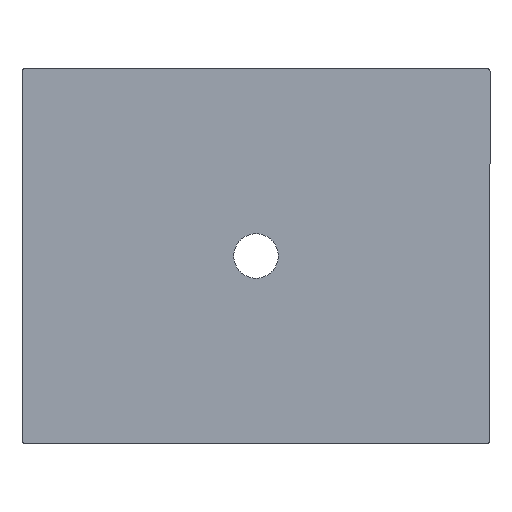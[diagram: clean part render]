
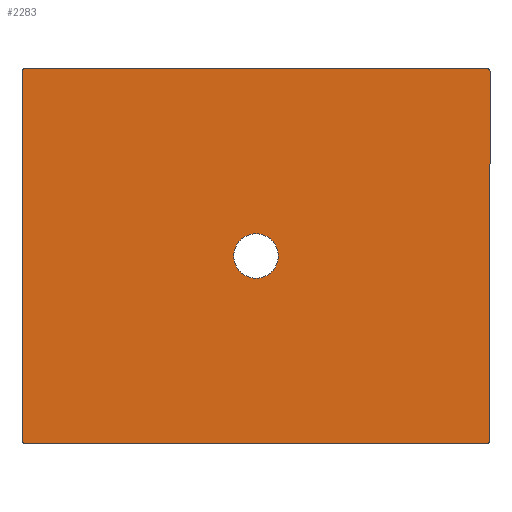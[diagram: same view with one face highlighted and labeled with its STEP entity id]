
A CAD part, front view. The second image highlights one B-rep face of the part: STEP entity #2283.
In plain terms, the highlighted planar face has unit normal (0, -1, 0).
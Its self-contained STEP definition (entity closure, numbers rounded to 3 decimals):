
#5 = CARTESIAN_POINT ( 'NONE',  ( 500., 0., 395.001 ) ) ;
#40 = PLANE ( 'NONE',  #633 ) ;
#109 = EDGE_CURVE ( 'NONE', #503, #892, #1597, .T. ) ;
#121 = CARTESIAN_POINT ( 'NONE',  ( 500., 0., 397.929 ) ) ;
#134 = EDGE_CURVE ( 'NONE', #2434, #954, #2320, .T. ) ;
#177 = CARTESIAN_POINT ( 'NONE',  ( -495.001, 0., -400. ) ) ;
#271 = CARTESIAN_POINT ( 'NONE',  ( -500., 0., 395.001 ) ) ;
#273 = CIRCLE ( 'NONE', #1721, 47.5 ) ;
#316 = DIRECTION ( 'NONE',  ( 0., -1., 0. ) ) ;
#324 = EDGE_CURVE ( 'NONE', #602, #1851, #2572, .T. ) ;
#376 =( BOUNDED_CURVE ( )  B_SPLINE_CURVE ( 3, ( #896, #121, #2497, #910 ),
 .UNSPECIFIED., .F., .F. ) 
 B_SPLINE_CURVE_WITH_KNOTS ( ( 4, 4 ),
 ( 5.498, 7.068 ),
 .UNSPECIFIED. ) 
 CURVE ( )  GEOMETRIC_REPRESENTATION_ITEM ( )  RATIONAL_B_SPLINE_CURVE ( ( 1., 0.805, 0.805, 1. ) ) 
 REPRESENTATION_ITEM ( '' )  );
#378 = DIRECTION ( 'NONE',  ( 1., 0., 0. ) ) ;
#493 = CARTESIAN_POINT ( 'NONE',  ( -495.001, 0., 400. ) ) ;
#503 = VERTEX_POINT ( 'NONE', #1029 ) ;
#509 = VERTEX_POINT ( 'NONE', #2092 ) ;
#538 = CARTESIAN_POINT ( 'NONE',  ( -497.929, 0., -400. ) ) ;
#541 = CARTESIAN_POINT ( 'NONE',  ( 495.001, 0., -400. ) ) ;
#578 = CARTESIAN_POINT ( 'NONE',  ( -500., 0., -395.001 ) ) ;
#587 = LINE ( 'NONE', #603, #941 ) ;
#602 = VERTEX_POINT ( 'NONE', #2439 ) ;
#603 = CARTESIAN_POINT ( 'NONE',  ( -500., 0., -400. ) ) ;
#633 = AXIS2_PLACEMENT_3D ( 'NONE', #2242, #2411, #2217 ) ;
#644 = EDGE_LOOP ( 'NONE', ( #2285 ) ) ;
#778 = CARTESIAN_POINT ( 'NONE',  ( -495.001, 0., -400. ) ) ;
#790 = EDGE_CURVE ( 'NONE', #1290, #954, #376, .T. ) ;
#801 = CARTESIAN_POINT ( 'NONE',  ( 500., 0., 400. ) ) ;
#892 = VERTEX_POINT ( 'NONE', #2271 ) ;
#896 = CARTESIAN_POINT ( 'NONE',  ( 500., 0., 395.001 ) ) ;
#910 = CARTESIAN_POINT ( 'NONE',  ( 495.001, 0., 400. ) ) ;
#921 = VECTOR ( 'NONE', #378, 1000. ) ;
#941 = VECTOR ( 'NONE', #1391, 1000. ) ;
#954 = VERTEX_POINT ( 'NONE', #1685 ) ;
#962 = CARTESIAN_POINT ( 'NONE',  ( 500., 0., -395.001 ) ) ;
#981 = CARTESIAN_POINT ( 'NONE',  ( 500., 0., -400. ) ) ;
#1029 = CARTESIAN_POINT ( 'NONE',  ( 495.001, 0., -400. ) ) ;
#1049 = EDGE_CURVE ( 'NONE', #503, #1851, #2119, .T. ) ;
#1155 = CARTESIAN_POINT ( 'NONE',  ( -500., 0., 400. ) ) ;
#1188 = EDGE_LOOP ( 'NONE', ( #2475, #1950, #1529, #1680, #2061, #1902, #2496, #1542 ) ) ;
#1189 = LINE ( 'NONE', #801, #1932 ) ;
#1218 = EDGE_CURVE ( 'NONE', #602, #2301, #587, .T. ) ;
#1241 = EDGE_CURVE ( 'NONE', #1290, #892, #1189, .T. ) ;
#1290 = VERTEX_POINT ( 'NONE', #5 ) ;
#1321 = CARTESIAN_POINT ( 'NONE',  ( -497.929, 0., 400. ) ) ;
#1332 = CARTESIAN_POINT ( 'NONE',  ( 497.929, 0., -400. ) ) ;
#1391 = DIRECTION ( 'NONE',  ( 0., 0., 1. ) ) ;
#1460 = CARTESIAN_POINT ( 'NONE',  ( -500., 0., 395.001 ) ) ;
#1529 = ORIENTED_EDGE ( 'NONE', *, *, #1241, .F. ) ;
#1542 = ORIENTED_EDGE ( 'NONE', *, *, #324, .T. ) ;
#1590 = EDGE_CURVE ( 'NONE', #509, #509, #273, .T. ) ;
#1597 =( BOUNDED_CURVE ( )  B_SPLINE_CURVE ( 3, ( #541, #1332, #2127, #962 ),
 .UNSPECIFIED., .F., .T. ) 
 B_SPLINE_CURVE_WITH_KNOTS ( ( 4, 4 ),
 ( 5.498, 7.068 ),
 .UNSPECIFIED. ) 
 CURVE ( )  GEOMETRIC_REPRESENTATION_ITEM ( )  RATIONAL_B_SPLINE_CURVE ( ( 1., 0.805, 0.805, 1. ) ) 
 REPRESENTATION_ITEM ( '' )  );
#1617 = FACE_OUTER_BOUND ( 'NONE', #1188, .T. ) ;
#1661 = DIRECTION ( 'NONE',  ( 0., 0., -1. ) ) ;
#1680 = ORIENTED_EDGE ( 'NONE', *, *, #790, .T. ) ;
#1685 = CARTESIAN_POINT ( 'NONE',  ( 495.001, 0., 400. ) ) ;
#1721 = AXIS2_PLACEMENT_3D ( 'NONE', #2108, #316, #1661 ) ;
#1815 = FACE_BOUND ( 'NONE', #644, .T. ) ;
#1846 =( BOUNDED_CURVE ( )  B_SPLINE_CURVE ( 3, ( #493, #1321, #2102, #271 ),
 .UNSPECIFIED., .F., .T. ) 
 B_SPLINE_CURVE_WITH_KNOTS ( ( 4, 4 ),
 ( 5.498, 7.068 ),
 .UNSPECIFIED. ) 
 CURVE ( )  GEOMETRIC_REPRESENTATION_ITEM ( )  RATIONAL_B_SPLINE_CURVE ( ( 1., 0.805, 0.805, 1. ) ) 
 REPRESENTATION_ITEM ( '' )  );
#1851 = VERTEX_POINT ( 'NONE', #177 ) ;
#1902 = ORIENTED_EDGE ( 'NONE', *, *, #2428, .T. ) ;
#1932 = VECTOR ( 'NONE', #1981, 1000. ) ;
#1950 = ORIENTED_EDGE ( 'NONE', *, *, #109, .T. ) ;
#1981 = DIRECTION ( 'NONE',  ( 0., 0., -1. ) ) ;
#2061 = ORIENTED_EDGE ( 'NONE', *, *, #134, .F. ) ;
#2089 = CARTESIAN_POINT ( 'NONE',  ( -495.001, 0., 400. ) ) ;
#2092 = CARTESIAN_POINT ( 'NONE',  ( 0., 0., -47.5 ) ) ;
#2102 = CARTESIAN_POINT ( 'NONE',  ( -500., 0., 397.929 ) ) ;
#2108 = CARTESIAN_POINT ( 'NONE',  ( 0., 0., 0. ) ) ;
#2119 = LINE ( 'NONE', #981, #2143 ) ;
#2127 = CARTESIAN_POINT ( 'NONE',  ( 500., 0., -397.929 ) ) ;
#2143 = VECTOR ( 'NONE', #2175, 1000. ) ;
#2175 = DIRECTION ( 'NONE',  ( -1., 0., 0. ) ) ;
#2217 = DIRECTION ( 'NONE',  ( 0., 0., 1. ) ) ;
#2242 = CARTESIAN_POINT ( 'NONE',  ( 0., 0., 0. ) ) ;
#2271 = CARTESIAN_POINT ( 'NONE',  ( 500., 0., -395.001 ) ) ;
#2283 = ADVANCED_FACE ( 'NONE', ( #1815, #1617 ), #40, .F. ) ;
#2285 = ORIENTED_EDGE ( 'NONE', *, *, #1590, .F. ) ;
#2301 = VERTEX_POINT ( 'NONE', #1460 ) ;
#2320 = LINE ( 'NONE', #1155, #921 ) ;
#2411 = DIRECTION ( 'NONE',  ( 0., 1., 0. ) ) ;
#2428 = EDGE_CURVE ( 'NONE', #2434, #2301, #1846, .T. ) ;
#2434 = VERTEX_POINT ( 'NONE', #2089 ) ;
#2439 = CARTESIAN_POINT ( 'NONE',  ( -500., 0., -395.001 ) ) ;
#2475 = ORIENTED_EDGE ( 'NONE', *, *, #1049, .F. ) ;
#2496 = ORIENTED_EDGE ( 'NONE', *, *, #1218, .F. ) ;
#2497 = CARTESIAN_POINT ( 'NONE',  ( 497.929, 0., 400. ) ) ;
#2557 = CARTESIAN_POINT ( 'NONE',  ( -500., 0., -397.929 ) ) ;
#2572 =( BOUNDED_CURVE ( )  B_SPLINE_CURVE ( 3, ( #578, #2557, #538, #778 ),
 .UNSPECIFIED., .F., .T. ) 
 B_SPLINE_CURVE_WITH_KNOTS ( ( 4, 4 ),
 ( 5.498, 7.068 ),
 .UNSPECIFIED. ) 
 CURVE ( )  GEOMETRIC_REPRESENTATION_ITEM ( )  RATIONAL_B_SPLINE_CURVE ( ( 1., 0.805, 0.805, 1. ) ) 
 REPRESENTATION_ITEM ( '' )  );
